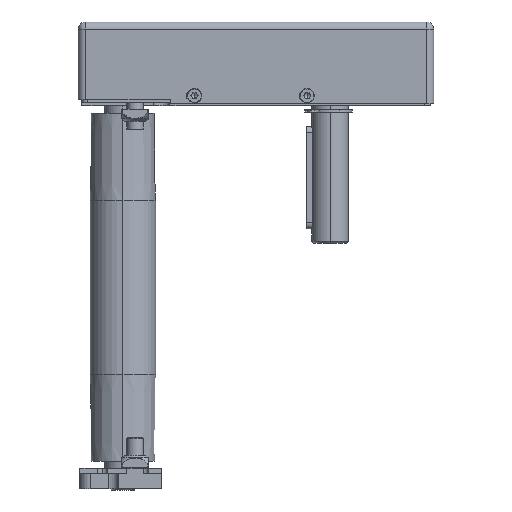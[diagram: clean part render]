
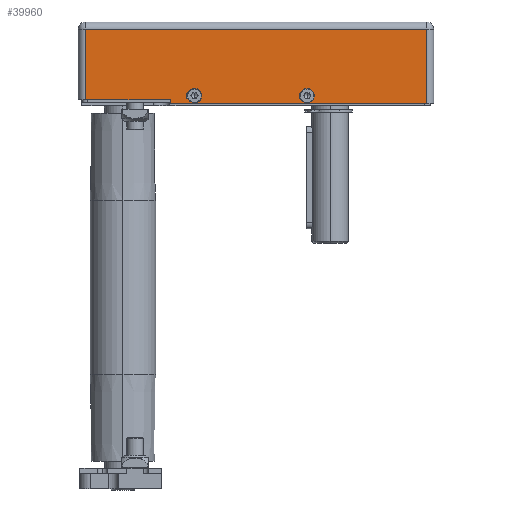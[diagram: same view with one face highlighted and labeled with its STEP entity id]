
A CAD part, left-side view. The second image highlights one B-rep face of the part: STEP entity #39960.
In plain terms, the highlighted planar face has unit normal (-1, 0, 0) as drawn and (1, 0, 0) by its records, which use the part's own axes.
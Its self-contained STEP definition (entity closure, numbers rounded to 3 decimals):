
#608 = CARTESIAN_POINT ( 'NONE',  ( 103.5, -3.5, 40. ) ) ;
#851 = LINE ( 'NONE', #17400, #5484 ) ;
#1317 = DIRECTION ( 'NONE',  ( 0., -1., 0. ) ) ;
#1954 = EDGE_CURVE ( 'NONE', #7640, #9765, #8182, .T. ) ;
#1996 = CARTESIAN_POINT ( 'NONE',  ( 103.5, -107.75, 36. ) ) ;
#2235 = DIRECTION ( 'NONE',  ( 1., 0., 0. ) ) ;
#2447 = DIRECTION ( 'NONE',  ( 0., 1., 0. ) ) ;
#2687 = DIRECTION ( 'NONE',  ( -1., 0., 0. ) ) ;
#2810 = CARTESIAN_POINT ( 'NONE',  ( 103.5, -3.5, 3.5 ) ) ;
#2847 = EDGE_CURVE ( 'NONE', #15398, #15752, #851, .T. ) ;
#2857 = DIRECTION ( 'NONE',  ( 0., 1., 0. ) ) ;
#3466 = EDGE_CURVE ( 'NONE', #5832, #32115, #42301, .T. ) ;
#3974 = DIRECTION ( 'NONE',  ( 1., 0., 0. ) ) ;
#5069 = VECTOR ( 'NONE', #7536, 1000. ) ;
#5442 = VECTOR ( 'NONE', #12958, 1000. ) ;
#5484 = VECTOR ( 'NONE', #41449, 1000. ) ;
#5689 = CARTESIAN_POINT ( 'NONE',  ( 103.5, -45., 40. ) ) ;
#5832 = VERTEX_POINT ( 'NONE', #31184 ) ;
#5922 = ORIENTED_EDGE ( 'NONE', *, *, #19141, .T. ) ;
#6168 = AXIS2_PLACEMENT_3D ( 'NONE', #33560, #16963, #10461 ) ;
#6799 = AXIS2_PLACEMENT_3D ( 'NONE', #23903, #3974, #7298 ) ;
#7290 = VERTEX_POINT ( 'NONE', #18046 ) ;
#7298 = DIRECTION ( 'NONE',  ( 0., 1., 0. ) ) ;
#7514 = VECTOR ( 'NONE', #38884, 1000. ) ;
#7536 = DIRECTION ( 'NONE',  ( 0., 0., -1. ) ) ;
#7640 = VERTEX_POINT ( 'NONE', #5689 ) ;
#7650 = ORIENTED_EDGE ( 'NONE', *, *, #38014, .F. ) ;
#7720 = LINE ( 'NONE', #26852, #37863 ) ;
#7964 = LINE ( 'NONE', #24536, #33471 ) ;
#8067 = DIRECTION ( 'NONE',  ( 0., 1., 0. ) ) ;
#8182 = LINE ( 'NONE', #14085, #5069 ) ;
#8707 = CARTESIAN_POINT ( 'NONE',  ( 103.5, -45., 38. ) ) ;
#8879 = CARTESIAN_POINT ( 'NONE',  ( 103.5, -112.5, 38.25 ) ) ;
#8967 = CIRCLE ( 'NONE', #15761, 2.25 ) ;
#9765 = VERTEX_POINT ( 'NONE', #8707 ) ;
#10076 = VERTEX_POINT ( 'NONE', #24344 ) ;
#10461 = DIRECTION ( 'NONE',  ( 0., 1., 0. ) ) ;
#10720 = CARTESIAN_POINT ( 'NONE',  ( 103.5, -3.5, 38. ) ) ;
#10801 = CARTESIAN_POINT ( 'NONE',  ( 103.5, -55., 33.75 ) ) ;
#11037 = DIRECTION ( 'NONE',  ( 0., 0., 1. ) ) ;
#11121 = EDGE_CURVE ( 'NONE', #10076, #40057, #13230, .T. ) ;
#12128 = ORIENTED_EDGE ( 'NONE', *, *, #41788, .F. ) ;
#12461 = AXIS2_PLACEMENT_3D ( 'NONE', #32319, #2235, #28841 ) ;
#12958 = DIRECTION ( 'NONE',  ( 0., 1., 0. ) ) ;
#13130 = ORIENTED_EDGE ( 'NONE', *, *, #3466, .T. ) ;
#13228 = VERTEX_POINT ( 'NONE', #38367 ) ;
#13230 = LINE ( 'NONE', #22815, #7514 ) ;
#13258 = ORIENTED_EDGE ( 'NONE', *, *, #33940, .F. ) ;
#13330 = CARTESIAN_POINT ( 'NONE',  ( 103.5, -170., 40. ) ) ;
#14085 = CARTESIAN_POINT ( 'NONE',  ( 103.5, -45., 38. ) ) ;
#14798 = CIRCLE ( 'NONE', #6799, 2.25 ) ;
#14924 = CARTESIAN_POINT ( 'NONE',  ( 103.5, -55., 38.25 ) ) ;
#15398 = VERTEX_POINT ( 'NONE', #16045 ) ;
#15449 = VERTEX_POINT ( 'NONE', #19415 ) ;
#15559 = FACE_BOUND ( 'NONE', #32744, .T. ) ;
#15752 = VERTEX_POINT ( 'NONE', #21380 ) ;
#15761 = AXIS2_PLACEMENT_3D ( 'NONE', #24165, #24298, #27776 ) ;
#15841 = AXIS2_PLACEMENT_3D ( 'NONE', #22606, #2687, #32626 ) ;
#16010 = VERTEX_POINT ( 'NONE', #13330 ) ;
#16045 = CARTESIAN_POINT ( 'NONE',  ( 103.5, -112.5, 33.75 ) ) ;
#16251 = EDGE_CURVE ( 'NONE', #9765, #20563, #7964, .T. ) ;
#16711 = CARTESIAN_POINT ( 'NONE',  ( 103.5, 0., 3.5 ) ) ;
#16963 = DIRECTION ( 'NONE',  ( 1., 0., 0. ) ) ;
#17145 = ORIENTED_EDGE ( 'NONE', *, *, #29849, .F. ) ;
#17400 = CARTESIAN_POINT ( 'NONE',  ( 103.5, -110., 33.75 ) ) ;
#17652 = FACE_OUTER_BOUND ( 'NONE', #26018, .T. ) ;
#18046 = CARTESIAN_POINT ( 'NONE',  ( 103.5, -57.5, 38.25 ) ) ;
#18789 = CIRCLE ( 'NONE', #31183, 2.25 ) ;
#19009 = CARTESIAN_POINT ( 'NONE',  ( 103.5, 0., 40. ) ) ;
#19141 = EDGE_CURVE ( 'NONE', #16010, #5832, #7720, .T. ) ;
#19415 = CARTESIAN_POINT ( 'NONE',  ( 103.5, -55., 38.25 ) ) ;
#19431 = DIRECTION ( 'NONE',  ( 1., 0., 0. ) ) ;
#19700 = LINE ( 'NONE', #19009, #35805 ) ;
#20002 = ORIENTED_EDGE ( 'NONE', *, *, #2847, .F. ) ;
#20322 = AXIS2_PLACEMENT_3D ( 'NONE', #33821, #40149, #30341 ) ;
#20563 = VERTEX_POINT ( 'NONE', #10720 ) ;
#21380 = CARTESIAN_POINT ( 'NONE',  ( 103.5, -110., 33.75 ) ) ;
#22338 = FACE_BOUND ( 'NONE', #29311, .T. ) ;
#22606 = CARTESIAN_POINT ( 'NONE',  ( 103.5, 0., 40. ) ) ;
#22815 = CARTESIAN_POINT ( 'NONE',  ( 103.5, -55., 33.75 ) ) ;
#23159 = ORIENTED_EDGE ( 'NONE', *, *, #42033, .F. ) ;
#23903 = CARTESIAN_POINT ( 'NONE',  ( 103.5, -112.5, 36. ) ) ;
#24165 = CARTESIAN_POINT ( 'NONE',  ( 103.5, -55., 36. ) ) ;
#24284 = ORIENTED_EDGE ( 'NONE', *, *, #1954, .F. ) ;
#24298 = DIRECTION ( 'NONE',  ( 1., 0., 0. ) ) ;
#24344 = CARTESIAN_POINT ( 'NONE',  ( 103.5, -57.5, 33.75 ) ) ;
#24536 = CARTESIAN_POINT ( 'NONE',  ( 103.5, 15., 38. ) ) ;
#24809 = LINE ( 'NONE', #34437, #37685 ) ;
#24829 = CIRCLE ( 'NONE', #6168, 2.25 ) ;
#26018 = EDGE_LOOP ( 'NONE', ( #32632, #34385, #24284, #23159, #5922, #13130 ) ) ;
#26405 = CARTESIAN_POINT ( 'NONE',  ( 103.5, -110., 38.25 ) ) ;
#26852 = CARTESIAN_POINT ( 'NONE',  ( 103.5, -170., 40. ) ) ;
#27014 = VERTEX_POINT ( 'NONE', #8879 ) ;
#27322 = ORIENTED_EDGE ( 'NONE', *, *, #30267, .F. ) ;
#27333 = EDGE_CURVE ( 'NONE', #32115, #20563, #27801, .T. ) ;
#27776 = DIRECTION ( 'NONE',  ( 0., 1., 0. ) ) ;
#27801 = LINE ( 'NONE', #608, #39214 ) ;
#28841 = DIRECTION ( 'NONE',  ( 0., 1., 0. ) ) ;
#29225 = VERTEX_POINT ( 'NONE', #1996 ) ;
#29249 = LINE ( 'NONE', #14924, #30292 ) ;
#29311 = EDGE_LOOP ( 'NONE', ( #27322, #7650, #35464, #39277, #13258 ) ) ;
#29576 = PLANE ( 'NONE',  #15841 ) ;
#29849 = EDGE_CURVE ( 'NONE', #29225, #38916, #41171, .T. ) ;
#30267 = EDGE_CURVE ( 'NONE', #15449, #7290, #29249, .T. ) ;
#30292 = VECTOR ( 'NONE', #41310, 1000. ) ;
#30341 = DIRECTION ( 'NONE',  ( 0., 1., 0. ) ) ;
#30482 = EDGE_CURVE ( 'NONE', #15752, #29225, #30789, .T. ) ;
#30789 = CIRCLE ( 'NONE', #20322, 2.25 ) ;
#30971 = ORIENTED_EDGE ( 'NONE', *, *, #30482, .F. ) ;
#31183 = AXIS2_PLACEMENT_3D ( 'NONE', #32365, #19431, #2857 ) ;
#31184 = CARTESIAN_POINT ( 'NONE',  ( 103.5, -170., 3.5 ) ) ;
#31464 = EDGE_CURVE ( 'NONE', #40057, #13228, #18789, .T. ) ;
#32115 = VERTEX_POINT ( 'NONE', #2810 ) ;
#32319 = CARTESIAN_POINT ( 'NONE',  ( 103.5, -110., 36. ) ) ;
#32365 = CARTESIAN_POINT ( 'NONE',  ( 103.5, -55., 36. ) ) ;
#32626 = DIRECTION ( 'NONE',  ( 0., -1., 0. ) ) ;
#32632 = ORIENTED_EDGE ( 'NONE', *, *, #27333, .T. ) ;
#32744 = EDGE_LOOP ( 'NONE', ( #12128, #17145, #30971, #20002, #42787 ) ) ;
#33471 = VECTOR ( 'NONE', #8067, 1000. ) ;
#33560 = CARTESIAN_POINT ( 'NONE',  ( 103.5, -57.5, 36. ) ) ;
#33821 = CARTESIAN_POINT ( 'NONE',  ( 103.5, -110., 36. ) ) ;
#33940 = EDGE_CURVE ( 'NONE', #7290, #10076, #24829, .T. ) ;
#34385 = ORIENTED_EDGE ( 'NONE', *, *, #16251, .F. ) ;
#34437 = CARTESIAN_POINT ( 'NONE',  ( 103.5, -110., 38.25 ) ) ;
#35464 = ORIENTED_EDGE ( 'NONE', *, *, #31464, .F. ) ;
#35805 = VECTOR ( 'NONE', #2447, 1000. ) ;
#36700 = EDGE_CURVE ( 'NONE', #27014, #15398, #14798, .T. ) ;
#37685 = VECTOR ( 'NONE', #1317, 1000. ) ;
#37863 = VECTOR ( 'NONE', #39868, 1000. ) ;
#38014 = EDGE_CURVE ( 'NONE', #13228, #15449, #8967, .T. ) ;
#38367 = CARTESIAN_POINT ( 'NONE',  ( 103.5, -52.75, 36. ) ) ;
#38884 = DIRECTION ( 'NONE',  ( 0., 1., 0. ) ) ;
#38916 = VERTEX_POINT ( 'NONE', #26405 ) ;
#39214 = VECTOR ( 'NONE', #11037, 1000. ) ;
#39277 = ORIENTED_EDGE ( 'NONE', *, *, #11121, .F. ) ;
#39868 = DIRECTION ( 'NONE',  ( 0., 0., -1. ) ) ;
#39960 = ADVANCED_FACE ( 'NONE', ( #15559, #22338, #17652 ), #29576, .F. ) ;
#40057 = VERTEX_POINT ( 'NONE', #10801 ) ;
#40149 = DIRECTION ( 'NONE',  ( 1., 0., 0. ) ) ;
#41171 = CIRCLE ( 'NONE', #12461, 2.25 ) ;
#41310 = DIRECTION ( 'NONE',  ( 0., -1., 0. ) ) ;
#41449 = DIRECTION ( 'NONE',  ( 0., 1., 0. ) ) ;
#41788 = EDGE_CURVE ( 'NONE', #38916, #27014, #24809, .T. ) ;
#42033 = EDGE_CURVE ( 'NONE', #16010, #7640, #19700, .T. ) ;
#42301 = LINE ( 'NONE', #16711, #5442 ) ;
#42787 = ORIENTED_EDGE ( 'NONE', *, *, #36700, .F. ) ;
